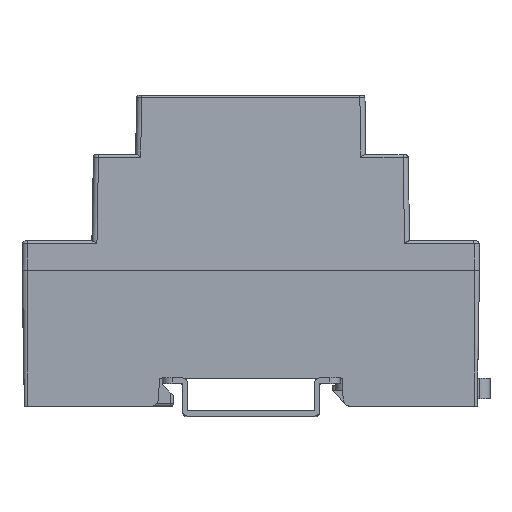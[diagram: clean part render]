
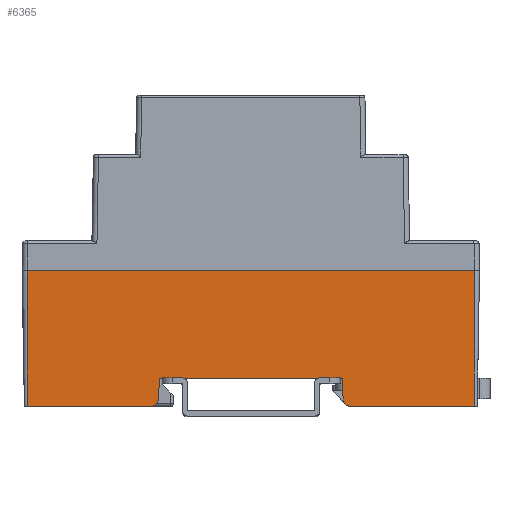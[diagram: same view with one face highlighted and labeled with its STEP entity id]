
A CAD part, top view. The second image highlights one B-rep face of the part: STEP entity #6365.
In plain terms, the highlighted planar face has unit normal (0, -0.018, 1).
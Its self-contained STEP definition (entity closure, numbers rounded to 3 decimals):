
#108 = EDGE_CURVE ( 'NONE', #16243, #10031, #17678, .T. ) ;
#152 = VERTEX_POINT ( 'NONE', #19911 ) ;
#204 = ORIENTED_EDGE ( 'NONE', *, *, #4088, .F. ) ;
#346 = CARTESIAN_POINT ( 'NONE',  ( 44., 0., 17.5 ) ) ;
#417 = CARTESIAN_POINT ( 'NONE',  ( 44., 0., 17.5 ) ) ;
#858 = AXIS2_PLACEMENT_3D ( 'NONE', #8308, #3436, #17558 ) ;
#1270 = VECTOR ( 'NONE', #4247, 1000. ) ;
#1543 = PLANE ( 'NONE',  #858 ) ;
#1607 = ORIENTED_EDGE ( 'NONE', *, *, #20550, .F. ) ;
#1768 = LINE ( 'NONE', #346, #7019 ) ;
#2287 = ORIENTED_EDGE ( 'NONE', *, *, #14975, .T. ) ;
#2747 = CARTESIAN_POINT ( 'NONE',  ( 44., -26.7, 17.034 ) ) ;
#3087 = VECTOR ( 'NONE', #10417, 1000. ) ;
#3436 = DIRECTION ( 'NONE',  ( 0., -0.017, 1. ) ) ;
#3527 = CARTESIAN_POINT ( 'NONE',  ( -18.208, -26.12, 17.044 ) ) ;
#3971 = LINE ( 'NONE', #16625, #3087 ) ;
#4088 = EDGE_CURVE ( 'NONE', #5541, #152, #14824, .T. ) ;
#4247 = DIRECTION ( 'NONE',  ( 1., 0., 0. ) ) ;
#4252 = VECTOR ( 'NONE', #6851, 1000. ) ;
#4350 = ORIENTED_EDGE ( 'NONE', *, *, #7211, .F. ) ;
#4408 = CARTESIAN_POINT ( 'NONE',  ( 44., -26.7, 17.034 ) ) ;
#4802 = VERTEX_POINT ( 'NONE', #8408 ) ;
#4921 = VECTOR ( 'NONE', #5888, 1000. ) ;
#5190 = EDGE_CURVE ( 'NONE', #5890, #5541, #3971, .T. ) ;
#5422 = VERTEX_POINT ( 'NONE', #6997 ) ;
#5541 = VERTEX_POINT ( 'NONE', #12311 ) ;
#5888 = DIRECTION ( 'NONE',  ( -1., 0., 0. ) ) ;
#5890 = VERTEX_POINT ( 'NONE', #9708 ) ;
#6190 = LINE ( 'NONE', #4408, #19630 ) ;
#6365 = ADVANCED_FACE ( 'NONE', ( #17877 ), #1543, .T. ) ;
#6513 = DIRECTION ( 'NONE',  ( -0.052, -0.998, -0.017 ) ) ;
#6761 = CARTESIAN_POINT ( 'NONE',  ( -18.164, -25.279, 17.059 ) ) ;
#6851 = DIRECTION ( 'NONE',  ( 1., 0., 0. ) ) ;
#6997 = CARTESIAN_POINT ( 'NONE',  ( 19.662, -26.7, 17.034 ) ) ;
#7019 = VECTOR ( 'NONE', #18005, 1000. ) ;
#7034 = VECTOR ( 'NONE', #6513, 1000. ) ;
#7211 = EDGE_CURVE ( 'NONE', #10031, #17652, #15712, .T. ) ;
#8308 = CARTESIAN_POINT ( 'NONE',  ( 44., 0., 17.5 ) ) ;
#8408 = CARTESIAN_POINT ( 'NONE',  ( 44., -26.7, 17.034 ) ) ;
#9145 =( BOUNDED_CURVE ( )  B_SPLINE_CURVE ( 3, ( #18183, #17962, #3527, #18386 ),
 .UNSPECIFIED., .F., .T. ) 
 B_SPLINE_CURVE_WITH_KNOTS ( ( 4, 4 ),
 ( 3.142, 4.66 ),
 .UNSPECIFIED. ) 
 CURVE ( )  GEOMETRIC_REPRESENTATION_ITEM ( )  RATIONAL_B_SPLINE_CURVE ( ( 1., 0.817, 0.817, 1. ) ) 
 REPRESENTATION_ITEM ( '' )  );
#9344 = EDGE_CURVE ( 'NONE', #16243, #5422, #15035, .T. ) ;
#9580 = VERTEX_POINT ( 'NONE', #6761 ) ;
#9708 = CARTESIAN_POINT ( 'NONE',  ( -44., -26.7, 17.034 ) ) ;
#9769 = CARTESIAN_POINT ( 'NONE',  ( -16.672, 3.179, 17.555 ) ) ;
#10031 = VERTEX_POINT ( 'NONE', #20702 ) ;
#10417 = DIRECTION ( 'NONE',  ( 0., 1., 0.017 ) ) ;
#10822 = CARTESIAN_POINT ( 'NONE',  ( 18.208, -26.12, 17.044 ) ) ;
#10870 = EDGE_CURVE ( 'NONE', #14919, #9580, #9145, .T. ) ;
#10926 = CARTESIAN_POINT ( 'NONE',  ( 18.819, -26.7, 17.034 ) ) ;
#11347 = ORIENTED_EDGE ( 'NONE', *, *, #14126, .T. ) ;
#11464 = EDGE_LOOP ( 'NONE', ( #12095, #18966, #11347, #18580, #204, #13098, #2287, #15168, #1607, #4350 ) ) ;
#12095 = ORIENTED_EDGE ( 'NONE', *, *, #108, .F. ) ;
#12247 = LINE ( 'NONE', #2747, #1270 ) ;
#12311 = CARTESIAN_POINT ( 'NONE',  ( -44., 0., 17.5 ) ) ;
#13098 = ORIENTED_EDGE ( 'NONE', *, *, #5190, .F. ) ;
#14090 = DIRECTION ( 'NONE',  ( 1., 0., 0. ) ) ;
#14126 = EDGE_CURVE ( 'NONE', #5422, #4802, #6190, .T. ) ;
#14184 = VECTOR ( 'NONE', #16108, 1000. ) ;
#14316 = CARTESIAN_POINT ( 'NONE',  ( 16.913, -1.419, 17.475 ) ) ;
#14367 = CARTESIAN_POINT ( 'NONE',  ( -17.95, -21.2, 17.13 ) ) ;
#14824 = LINE ( 'NONE', #417, #4252 ) ;
#14919 = VERTEX_POINT ( 'NONE', #20669 ) ;
#14975 = EDGE_CURVE ( 'NONE', #5890, #14919, #12247, .T. ) ;
#15035 =( BOUNDED_CURVE ( )  B_SPLINE_CURVE ( 3, ( #17476, #10822, #10926, #19046 ),
 .UNSPECIFIED., .F., .T. ) 
 B_SPLINE_CURVE_WITH_KNOTS ( ( 4, 4 ),
 ( 4.765, 6.283 ),
 .UNSPECIFIED. ) 
 CURVE ( )  GEOMETRIC_REPRESENTATION_ITEM ( )  RATIONAL_B_SPLINE_CURVE ( ( 1., 0.817, 0.817, 1. ) ) 
 REPRESENTATION_ITEM ( '' )  );
#15168 = ORIENTED_EDGE ( 'NONE', *, *, #10870, .T. ) ;
#15712 = LINE ( 'NONE', #17501, #4921 ) ;
#16108 = DIRECTION ( 'NONE',  ( -0.052, 0.998, 0.017 ) ) ;
#16243 = VERTEX_POINT ( 'NONE', #18072 ) ;
#16625 = CARTESIAN_POINT ( 'NONE',  ( -44., 0., 17.5 ) ) ;
#17476 = CARTESIAN_POINT ( 'NONE',  ( 18.164, -25.279, 17.059 ) ) ;
#17501 = CARTESIAN_POINT ( 'NONE',  ( 44., -21.2, 17.13 ) ) ;
#17558 = DIRECTION ( 'NONE',  ( 0., -1., -0.017 ) ) ;
#17652 = VERTEX_POINT ( 'NONE', #14367 ) ;
#17678 = LINE ( 'NONE', #14316, #14184 ) ;
#17877 = FACE_OUTER_BOUND ( 'NONE', #11464, .T. ) ;
#17962 = CARTESIAN_POINT ( 'NONE',  ( -18.819, -26.7, 17.034 ) ) ;
#18005 = DIRECTION ( 'NONE',  ( 0., 1., 0.017 ) ) ;
#18072 = CARTESIAN_POINT ( 'NONE',  ( 18.164, -25.279, 17.059 ) ) ;
#18183 = CARTESIAN_POINT ( 'NONE',  ( -19.662, -26.7, 17.034 ) ) ;
#18386 = CARTESIAN_POINT ( 'NONE',  ( -18.164, -25.279, 17.059 ) ) ;
#18580 = ORIENTED_EDGE ( 'NONE', *, *, #20096, .T. ) ;
#18966 = ORIENTED_EDGE ( 'NONE', *, *, #9344, .T. ) ;
#19046 = CARTESIAN_POINT ( 'NONE',  ( 19.662, -26.7, 17.034 ) ) ;
#19630 = VECTOR ( 'NONE', #14090, 1000. ) ;
#19670 = LINE ( 'NONE', #9769, #7034 ) ;
#19911 = CARTESIAN_POINT ( 'NONE',  ( 44., 0., 17.5 ) ) ;
#20096 = EDGE_CURVE ( 'NONE', #4802, #152, #1768, .T. ) ;
#20550 = EDGE_CURVE ( 'NONE', #17652, #9580, #19670, .T. ) ;
#20669 = CARTESIAN_POINT ( 'NONE',  ( -19.662, -26.7, 17.034 ) ) ;
#20702 = CARTESIAN_POINT ( 'NONE',  ( 17.95, -21.2, 17.13 ) ) ;
